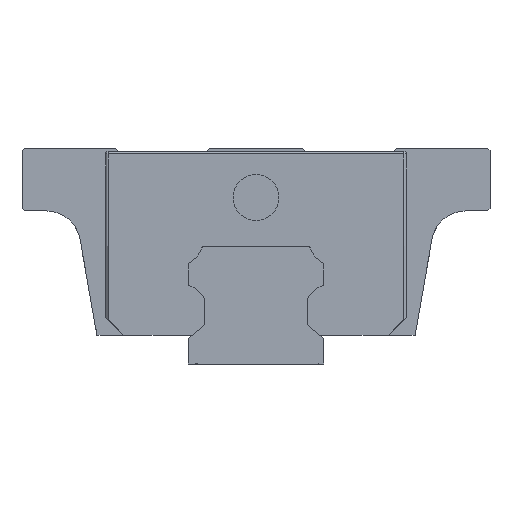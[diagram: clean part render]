
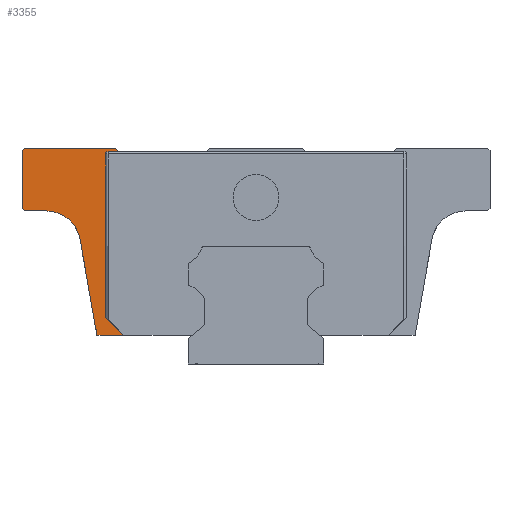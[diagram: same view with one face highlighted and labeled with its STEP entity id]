
A CAD part, left-side view. The second image highlights one B-rep face of the part: STEP entity #3355.
In plain terms, the highlighted planar face has unit normal (-1, 0, 0).
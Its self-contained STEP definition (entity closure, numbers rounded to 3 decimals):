
#60 = DIRECTION ( 'NONE',  ( 0., 1., 0. ) ) ;
#62 = VECTOR ( 'NONE', #5727, 1000. ) ;
#95 = FACE_OUTER_BOUND ( 'NONE', #745, .T. ) ;
#119 = VERTEX_POINT ( 'NONE', #2178 ) ;
#187 = VERTEX_POINT ( 'NONE', #3278 ) ;
#209 = DIRECTION ( 'NONE',  ( 0., 0., -1. ) ) ;
#278 = EDGE_CURVE ( 'NONE', #1713, #5051, #5568, .T. ) ;
#333 = DIRECTION ( 'NONE',  ( 0., 0.643, 0.766 ) ) ;
#672 = DIRECTION ( 'NONE',  ( 1., 0., 0. ) ) ;
#682 = EDGE_CURVE ( 'NONE', #4686, #1325, #6726, .T. ) ;
#745 = EDGE_LOOP ( 'NONE', ( #2276, #1897, #2517, #1988, #4821, #3909, #5382, #1003, #3520, #4384, #1484, #2292, #4778 ) ) ;
#811 = CARTESIAN_POINT ( 'NONE',  ( -19.75, -18.027, 23.595 ) ) ;
#862 = VECTOR ( 'NONE', #3986, 1000. ) ;
#909 = CARTESIAN_POINT ( 'NONE',  ( -19.75, 15.26, 23.595 ) ) ;
#994 = LINE ( 'NONE', #4234, #2748 ) ;
#1003 = ORIENTED_EDGE ( 'NONE', *, *, #4483, .T. ) ;
#1075 = EDGE_CURVE ( 'NONE', #1526, #6293, #4651, .T. ) ;
#1149 = LINE ( 'NONE', #1578, #2371 ) ;
#1256 = CARTESIAN_POINT ( 'NONE',  ( -19.75, 26., 24. ) ) ;
#1325 = VERTEX_POINT ( 'NONE', #5931 ) ;
#1354 = CARTESIAN_POINT ( 'NONE',  ( -19.75, 25.74, 24. ) ) ;
#1484 = ORIENTED_EDGE ( 'NONE', *, *, #1824, .F. ) ;
#1526 = VERTEX_POINT ( 'NONE', #1791 ) ;
#1578 = CARTESIAN_POINT ( 'NONE',  ( -19.75, 26., 17. ) ) ;
#1609 = DIRECTION ( 'NONE',  ( 0., -0.707, -0.707 ) ) ;
#1713 = VERTEX_POINT ( 'NONE', #1932 ) ;
#1745 = CARTESIAN_POINT ( 'NONE',  ( -19.75, -6.587, 3.2 ) ) ;
#1791 = CARTESIAN_POINT ( 'NONE',  ( -19.75, 19.561, 13.901 ) ) ;
#1824 = EDGE_CURVE ( 'NONE', #6026, #187, #994, .T. ) ;
#1897 = ORIENTED_EDGE ( 'NONE', *, *, #7018, .T. ) ;
#1932 = CARTESIAN_POINT ( 'NONE',  ( -19.75, 26., 23.74 ) ) ;
#1988 = ORIENTED_EDGE ( 'NONE', *, *, #5963, .T. ) ;
#1999 = EDGE_CURVE ( 'NONE', #6010, #2082, #2312, .T. ) ;
#2006 = CARTESIAN_POINT ( 'NONE',  ( -19.75, 19.976, 29.764 ) ) ;
#2021 = VECTOR ( 'NONE', #209, 1000. ) ;
#2082 = VERTEX_POINT ( 'NONE', #1354 ) ;
#2140 = AXIS2_PLACEMENT_3D ( 'NONE', #4551, #6189, #2305 ) ;
#2178 = CARTESIAN_POINT ( 'NONE',  ( -19.75, 16.702, 23.335 ) ) ;
#2276 = ORIENTED_EDGE ( 'NONE', *, *, #682, .F. ) ;
#2292 = ORIENTED_EDGE ( 'NONE', *, *, #3448, .F. ) ;
#2305 = DIRECTION ( 'NONE',  ( 0., 0., 1. ) ) ;
#2312 = LINE ( 'NONE', #4485, #5908 ) ;
#2335 = VECTOR ( 'NONE', #3327, 1000. ) ;
#2371 = VECTOR ( 'NONE', #3713, 1000. ) ;
#2428 = CARTESIAN_POINT ( 'NONE',  ( -19.75, 17.674, 3.2 ) ) ;
#2516 = VECTOR ( 'NONE', #5927, 1000. ) ;
#2517 = ORIENTED_EDGE ( 'NONE', *, *, #1999, .T. ) ;
#2748 = VECTOR ( 'NONE', #1609, 1000. ) ;
#2770 = CARTESIAN_POINT ( 'NONE',  ( -19.75, 16.702, 23.125 ) ) ;
#2876 = DIRECTION ( 'NONE',  ( 0., 0., 1. ) ) ;
#2928 = CARTESIAN_POINT ( 'NONE',  ( -19.75, 15.233, 23.563 ) ) ;
#3020 = EDGE_CURVE ( 'NONE', #5051, #4630, #4528, .T. ) ;
#3278 = CARTESIAN_POINT ( 'NONE',  ( -19.75, 14.702, 3.2 ) ) ;
#3304 = CARTESIAN_POINT ( 'NONE',  ( -19.75, 16.442, 23.335 ) ) ;
#3327 = DIRECTION ( 'NONE',  ( 0., -1., 0. ) ) ;
#3355 = ADVANCED_FACE ( 'NONE', ( #95 ), #6622, .T. ) ;
#3394 = CIRCLE ( 'NONE', #2140, 3.75 ) ;
#3400 = EDGE_CURVE ( 'NONE', #119, #1325, #3710, .T. ) ;
#3448 = EDGE_CURVE ( 'NONE', #119, #6026, #3944, .T. ) ;
#3520 = ORIENTED_EDGE ( 'NONE', *, *, #1075, .T. ) ;
#3710 = CIRCLE ( 'NONE', #6327, 0.26 ) ;
#3713 = DIRECTION ( 'NONE',  ( 0., -1., 0. ) ) ;
#3875 = DIRECTION ( 'NONE',  ( -1., 0., 0. ) ) ;
#3909 = ORIENTED_EDGE ( 'NONE', *, *, #3020, .T. ) ;
#3929 = LINE ( 'NONE', #5509, #2335 ) ;
#3944 = LINE ( 'NONE', #2770, #4729 ) ;
#3986 = DIRECTION ( 'NONE',  ( 0., -0.707, -0.707 ) ) ;
#4066 = EDGE_CURVE ( 'NONE', #4630, #5284, #1149, .T. ) ;
#4208 = CARTESIAN_POINT ( 'NONE',  ( -19.75, 16.702, 5.2 ) ) ;
#4234 = CARTESIAN_POINT ( 'NONE',  ( -19.75, 16.702, 5.2 ) ) ;
#4335 = CARTESIAN_POINT ( 'NONE',  ( -19.75, 23.254, 17. ) ) ;
#4384 = ORIENTED_EDGE ( 'NONE', *, *, #6894, .T. ) ;
#4411 = DIRECTION ( 'NONE',  ( 0., 0., 1. ) ) ;
#4483 = EDGE_CURVE ( 'NONE', #5284, #1526, #3394, .T. ) ;
#4485 = CARTESIAN_POINT ( 'NONE',  ( -19.75, 15.6, 24. ) ) ;
#4528 = LINE ( 'NONE', #6705, #862 ) ;
#4551 = CARTESIAN_POINT ( 'NONE',  ( -19.75, 23.254, 13.25 ) ) ;
#4630 = VERTEX_POINT ( 'NONE', #6368 ) ;
#4651 = LINE ( 'NONE', #4685, #62 ) ;
#4685 = CARTESIAN_POINT ( 'NONE',  ( -19.75, 20.108, 17. ) ) ;
#4686 = VERTEX_POINT ( 'NONE', #909 ) ;
#4729 = VECTOR ( 'NONE', #6129, 1000. ) ;
#4778 = ORIENTED_EDGE ( 'NONE', *, *, #3400, .T. ) ;
#4821 = ORIENTED_EDGE ( 'NONE', *, *, #278, .T. ) ;
#5051 = VERTEX_POINT ( 'NONE', #6289 ) ;
#5091 = DIRECTION ( 'NONE',  ( 0., 1., 0. ) ) ;
#5284 = VERTEX_POINT ( 'NONE', #4335 ) ;
#5303 = AXIS2_PLACEMENT_3D ( 'NONE', #1745, #3875, #4411 ) ;
#5382 = ORIENTED_EDGE ( 'NONE', *, *, #4066, .T. ) ;
#5395 = LINE ( 'NONE', #2006, #2516 ) ;
#5509 = CARTESIAN_POINT ( 'NONE',  ( -19.75, 17.674, 3.2 ) ) ;
#5568 = LINE ( 'NONE', #1256, #2021 ) ;
#5645 = VECTOR ( 'NONE', #333, 1000. ) ;
#5727 = DIRECTION ( 'NONE',  ( 0., -0.174, -0.985 ) ) ;
#5792 = CARTESIAN_POINT ( 'NONE',  ( -19.75, 15.6, 24. ) ) ;
#5908 = VECTOR ( 'NONE', #60, 1000. ) ;
#5927 = DIRECTION ( 'NONE',  ( 0., 0.707, -0.707 ) ) ;
#5931 = CARTESIAN_POINT ( 'NONE',  ( -19.75, 16.442, 23.595 ) ) ;
#5963 = EDGE_CURVE ( 'NONE', #2082, #1713, #5395, .T. ) ;
#6010 = VERTEX_POINT ( 'NONE', #5792 ) ;
#6026 = VERTEX_POINT ( 'NONE', #4208 ) ;
#6129 = DIRECTION ( 'NONE',  ( 0., 0., -1. ) ) ;
#6189 = DIRECTION ( 'NONE',  ( 1., 0., 0. ) ) ;
#6289 = CARTESIAN_POINT ( 'NONE',  ( -19.75, 26., 17.26 ) ) ;
#6293 = VERTEX_POINT ( 'NONE', #2428 ) ;
#6327 = AXIS2_PLACEMENT_3D ( 'NONE', #3304, #672, #2876 ) ;
#6368 = CARTESIAN_POINT ( 'NONE',  ( -19.75, 25.74, 17. ) ) ;
#6392 = VECTOR ( 'NONE', #5091, 1000. ) ;
#6622 = PLANE ( 'NONE',  #5303 ) ;
#6705 = CARTESIAN_POINT ( 'NONE',  ( -19.75, 2.676, -6.064 ) ) ;
#6726 = LINE ( 'NONE', #811, #6392 ) ;
#6889 = LINE ( 'NONE', #2928, #5645 ) ;
#6894 = EDGE_CURVE ( 'NONE', #6293, #187, #3929, .T. ) ;
#7018 = EDGE_CURVE ( 'NONE', #4686, #6010, #6889, .T. ) ;
